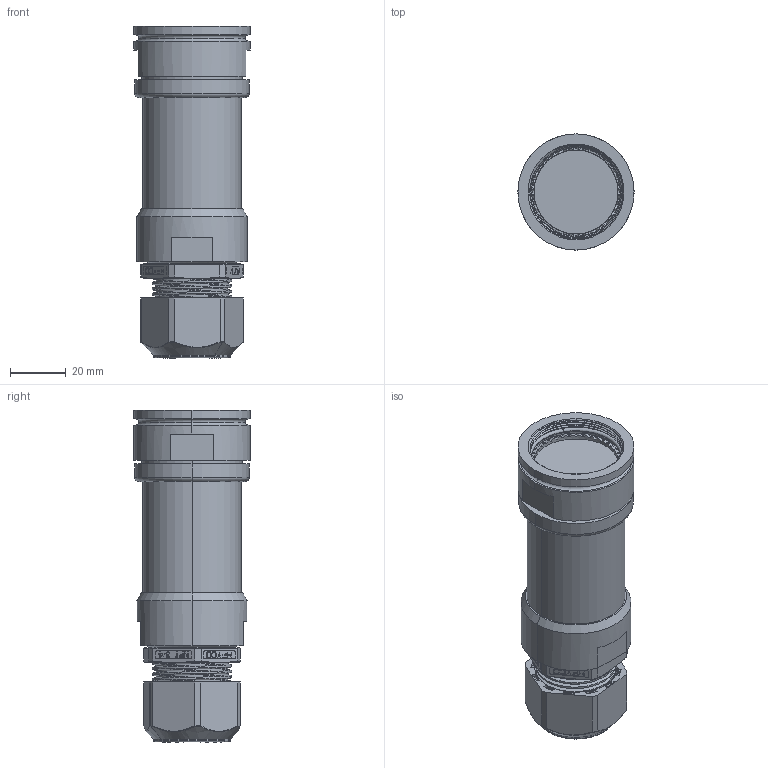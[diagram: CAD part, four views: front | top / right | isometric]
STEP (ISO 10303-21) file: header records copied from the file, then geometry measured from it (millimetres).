
FILE_DESCRIPTION (( 'STEP AP214' ), '1' );
FILE_NAME ('Q38SHELL-STX-23-XXXX-GL.STEP', '2025-09-09T22:35:07', ( '' ), ( '' ), 'SwSTEP 2.0', 'SolidWorks 2024', '' );
FILE_SCHEMA (( 'AUTOMOTIVE_DESIGN' ));
Length unit declared in the file: millimetre
Products named in the file (1): Q38SHELL-STX-23-XXXX-GL
Bounding box: 41.78 x 41.78 x 119.43 mm (x, y, z)
Surface area: 36661.3 mm2 (no closed solid volume)
Topology: 0 solids, 8 shells, 1379 faces, 3707 edges, 2398 vertices
Faces by surface type: plane 740, cylinder 237, bspline 140, torus 123, cone 119, sphere 20
Entity records: 64091 total; most frequent: CARTESIAN_POINT 36372, ORIENTED_EDGE 7365, EDGE_CURVE 3707, DIRECTION 3365, B_SPLINE_CURVE_WITH_KNOTS 2833, VERTEX_POINT 2398, AXIS2_PLACEMENT_3D 1536, EDGE_LOOP 1449
